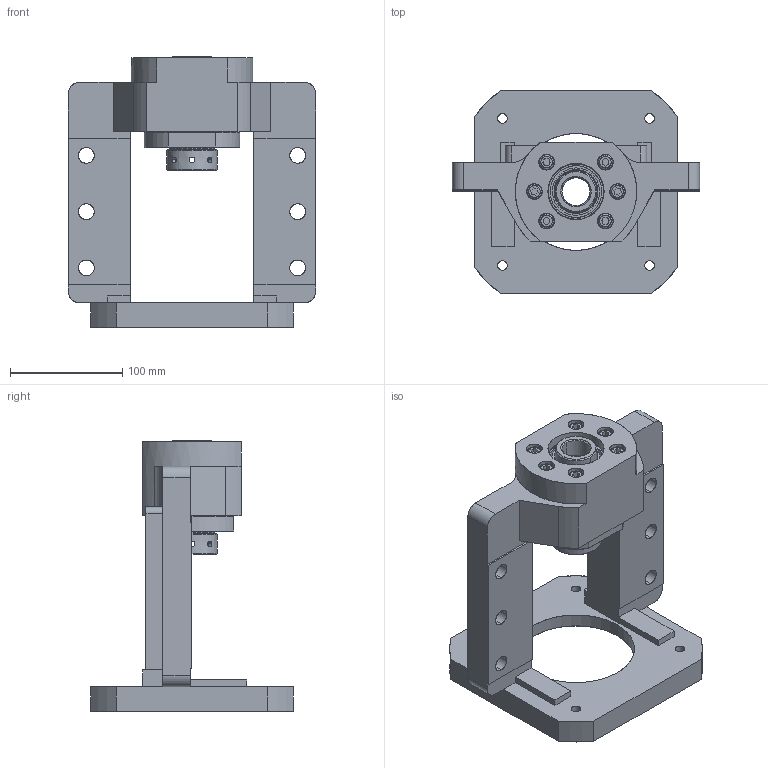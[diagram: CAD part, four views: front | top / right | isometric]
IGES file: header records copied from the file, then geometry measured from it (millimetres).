
Start section: SolidWorks IGES file using analytic representation for surfaces
Bounding box: 220 x 180 x 241 mm (x, y, z)
Surface area: 226569.8 mm2 (no closed solid volume)
Topology: 0 solids, 0 shells, 338 faces, 6554 edges, 6546 vertices
Faces by surface type: revolution 182, bspline 156
